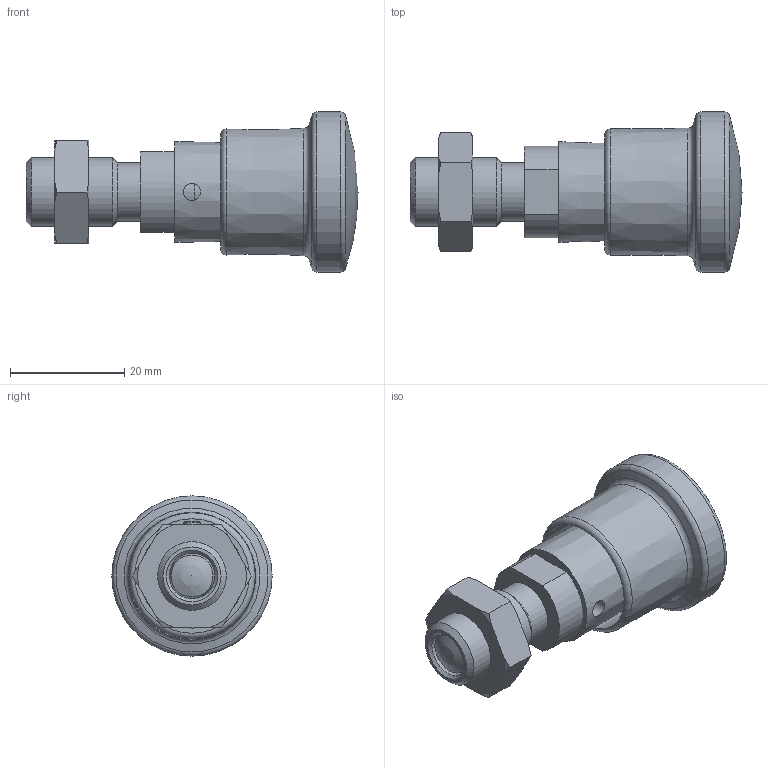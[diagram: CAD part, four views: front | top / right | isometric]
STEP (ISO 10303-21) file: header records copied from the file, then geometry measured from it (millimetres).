
FILE_DESCRIPTION( ( 'STEP AP203' ), '1' );
FILE_NAME( 'C:/Temp/Ganter_Step_05_03_2020/data/3_1/gn816/gn_816_ark/Locking plunger GN 816-8-M12x1,5-ARK (activated).stp', '2020-03-12T08:55:51', ( 'License CC BY-ND 4.0' ), ( 'CADENAS' ), ' ', 'PARTsolutions', ' ' );
FILE_SCHEMA( ( 'CONFIG_CONTROL_DESIGN' ) );
Length unit declared in the file: millimetre
Products named in the file (4): Locking plunger GN 816-8-M12x1,5-ARK (activated); _GN 816-8-M12x1,5-AR1-2; _GN 816-8-M12x1,5-AR (1)-1; _Lock nut ISO 8675 GN 816-8-M12x1,5-AK
Assembly tree (3 placements, depth 2):
  Locking plunger GN 816-8-M12x1,5-ARK (activated)
    _GN 816-8-M12x1,5-AR1-2
    _GN 816-8-M12x1,5-AR (1)-1
    _Lock nut ISO 8675 GN 816-8-M12x1,5-AK
Bounding box: 58 x 28 x 28 mm (x, y, z)
Volume: 12574.7 mm3; surface area: 10089.3 mm2
Topology: 3 solids, 3 shells, 77 faces, 168 edges, 105 vertices
Faces by surface type: cone 26, plane 25, cylinder 18, torus 6, sphere 2
Full cylindrical faces by diameter (mm): 2.9 x2, 3 x2, 5.9 x1, 6 x1, 8 x2, 10.2 x1, 10.376 x1, 11.1 x1, 12 x1, 14 x1, 18.2 x1, 20.017 x1, 28 x1
Entity records: 2313 total; most frequent: CARTESIAN_POINT 675, DIRECTION 318, ORIENTED_EDGE 244, AXIS2_PLACEMENT_3D 145, EDGE_LOOP 132, EDGE_CURVE 122, VERTEX_POINT 100, FACE_OUTER_BOUND 99
